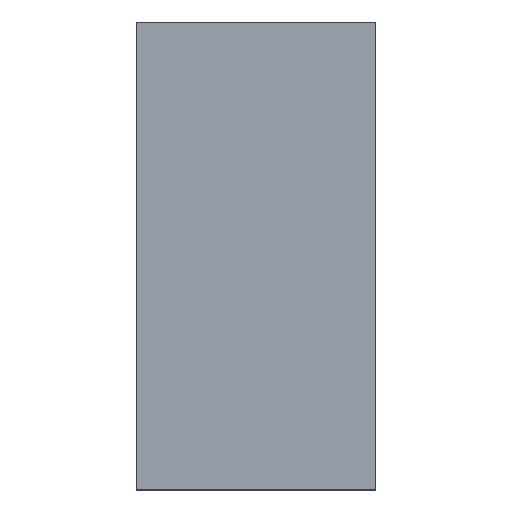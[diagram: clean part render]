
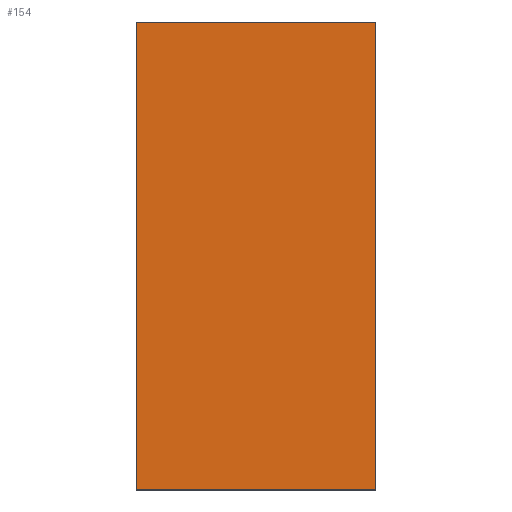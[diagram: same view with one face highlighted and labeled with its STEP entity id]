
A CAD part, top view. The second image highlights one B-rep face of the part: STEP entity #154.
In plain terms, the highlighted planar face has unit normal (0, 0, 1).
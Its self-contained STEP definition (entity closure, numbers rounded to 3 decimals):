
#85 = LINE ( 'NONE', #330, #630 ) ;
#130 = VERTEX_POINT ( 'NONE', #634 ) ;
#150 = LINE ( 'NONE', #492, #283 ) ;
#154 = ADVANCED_FACE ( 'NONE', ( #155 ), #1487, .F. ) ;
#155 = FACE_OUTER_BOUND ( 'NONE', #902, .T. ) ;
#190 = CARTESIAN_POINT ( 'NONE',  ( 550., 878., 0. ) ) ;
#260 = EDGE_CURVE ( 'NONE', #849, #564, #85, .T. ) ;
#283 = VECTOR ( 'NONE', #1457, 1000. ) ;
#330 = CARTESIAN_POINT ( 'NONE',  ( 500., 0., 0. ) ) ;
#363 = EDGE_CURVE ( 'NONE', #849, #1216, #922, .T. ) ;
#371 = EDGE_CURVE ( 'NONE', #1216, #130, #804, .T. ) ;
#492 = CARTESIAN_POINT ( 'NONE',  ( 550., 0., 0. ) ) ;
#510 = DIRECTION ( 'NONE',  ( 0., 0., -1. ) ) ;
#516 = CARTESIAN_POINT ( 'NONE',  ( 550., 0., 0. ) ) ;
#540 = DIRECTION ( 'NONE',  ( -1., 0., 0. ) ) ;
#564 = VERTEX_POINT ( 'NONE', #1209 ) ;
#630 = VECTOR ( 'NONE', #916, 1000. ) ;
#634 = CARTESIAN_POINT ( 'NONE',  ( 50., 0., 0. ) ) ;
#683 = DIRECTION ( 'NONE',  ( 0., -1., 0. ) ) ;
#784 = AXIS2_PLACEMENT_3D ( 'NONE', #516, #510, #1001 ) ;
#804 = LINE ( 'NONE', #1278, #888 ) ;
#849 = VERTEX_POINT ( 'NONE', #1285 ) ;
#888 = VECTOR ( 'NONE', #683, 1000. ) ;
#902 = EDGE_LOOP ( 'NONE', ( #1046, #1008, #1364, #1376 ) ) ;
#916 = DIRECTION ( 'NONE',  ( 0., -1., 0. ) ) ;
#922 = LINE ( 'NONE', #190, #1389 ) ;
#976 = EDGE_CURVE ( 'NONE', #564, #130, #150, .T. ) ;
#1001 = DIRECTION ( 'NONE',  ( -1., 0., 0. ) ) ;
#1008 = ORIENTED_EDGE ( 'NONE', *, *, #976, .F. ) ;
#1046 = ORIENTED_EDGE ( 'NONE', *, *, #371, .T. ) ;
#1170 = CARTESIAN_POINT ( 'NONE',  ( 50., 878., 0. ) ) ;
#1209 = CARTESIAN_POINT ( 'NONE',  ( 500., 0., 0. ) ) ;
#1216 = VERTEX_POINT ( 'NONE', #1170 ) ;
#1278 = CARTESIAN_POINT ( 'NONE',  ( 50., 0., 0. ) ) ;
#1285 = CARTESIAN_POINT ( 'NONE',  ( 500., 878., 0. ) ) ;
#1364 = ORIENTED_EDGE ( 'NONE', *, *, #260, .F. ) ;
#1376 = ORIENTED_EDGE ( 'NONE', *, *, #363, .T. ) ;
#1389 = VECTOR ( 'NONE', #540, 1000. ) ;
#1457 = DIRECTION ( 'NONE',  ( -1., 0., 0. ) ) ;
#1487 = PLANE ( 'NONE',  #784 ) ;
